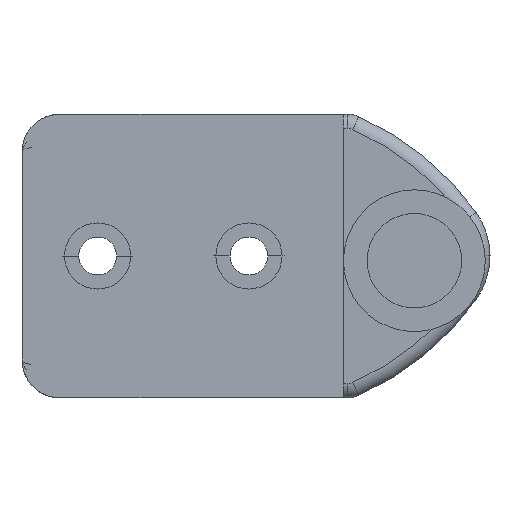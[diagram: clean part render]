
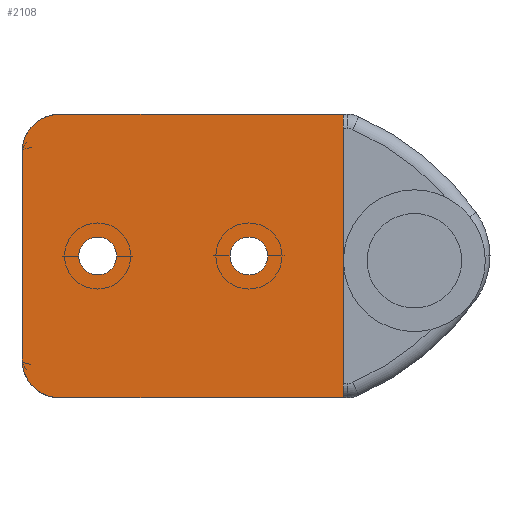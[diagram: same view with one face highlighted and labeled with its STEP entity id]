
A CAD part, front view. The second image highlights one B-rep face of the part: STEP entity #2108.
In plain terms, the highlighted planar face has unit normal (0, -1, 0).
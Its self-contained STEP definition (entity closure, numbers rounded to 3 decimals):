
#5 = LINE ( 'NONE', #3093, #158 ) ;
#38 = FACE_OUTER_BOUND ( 'NONE', #473, .T. ) ;
#60 = CIRCLE ( 'NONE', #2495, 2. ) ;
#80 = CIRCLE ( 'NONE', #2481, 4. ) ;
#108 = CIRCLE ( 'NONE', #2157, 4. ) ;
#156 = VECTOR ( 'NONE', #3078, 1000. ) ;
#158 = VECTOR ( 'NONE', #3092, 1000. ) ;
#164 = LINE ( 'NONE', #3079, #156 ) ;
#185 = VECTOR ( 'NONE', #3697, 1000. ) ;
#214 = FACE_BOUND ( 'NONE', #488, .T. ) ;
#217 = LINE ( 'NONE', #3815, #185 ) ;
#295 = EDGE_LOOP ( 'NONE', ( #667, #707 ) ) ;
#368 = ORIENTED_EDGE ( 'NONE', *, *, #2277, .T. ) ;
#375 = ORIENTED_EDGE ( 'NONE', *, *, #2329, .T. ) ;
#378 = ORIENTED_EDGE ( 'NONE', *, *, #2271, .T. ) ;
#420 = ORIENTED_EDGE ( 'NONE', *, *, #2265, .T. ) ;
#456 = ORIENTED_EDGE ( 'NONE', *, *, #2232, .F. ) ;
#462 = ORIENTED_EDGE ( 'NONE', *, *, #2281, .T. ) ;
#473 = EDGE_LOOP ( 'NONE', ( #689, #420, #378, #368, #462, #375 ) ) ;
#488 = EDGE_LOOP ( 'NONE', ( #456, #751 ) ) ;
#667 = ORIENTED_EDGE ( 'NONE', *, *, #2239, .F. ) ;
#689 = ORIENTED_EDGE ( 'NONE', *, *, #2287, .T. ) ;
#707 = ORIENTED_EDGE ( 'NONE', *, *, #2331, .F. ) ;
#751 = ORIENTED_EDGE ( 'NONE', *, *, #2330, .F. ) ;
#778 = LINE ( 'NONE', #2964, #843 ) ;
#791 = CIRCLE ( 'NONE', #2486, 2. ) ;
#801 = CIRCLE ( 'NONE', #2149, 2. ) ;
#843 = VECTOR ( 'NONE', #2963, 1000. ) ;
#854 = FACE_BOUND ( 'NONE', #295, .T. ) ;
#884 = CIRCLE ( 'NONE', #2168, 2. ) ;
#1742 = CARTESIAN_POINT ( 'NONE',  ( -41.5, 547., -10.5 ) ) ;
#1744 = CARTESIAN_POINT ( 'NONE',  ( -37.5, 547., 15.5 ) ) ;
#1767 = CARTESIAN_POINT ( 'NONE',  ( -7.5, 547., -14.5 ) ) ;
#1772 = CARTESIAN_POINT ( 'NONE',  ( -41.5, 547., 11.5 ) ) ;
#1794 = CARTESIAN_POINT ( 'NONE',  ( -37.5, 547., -14.5 ) ) ;
#1809 = CARTESIAN_POINT ( 'NONE',  ( -7.5, 547., 15.5 ) ) ;
#1848 = CARTESIAN_POINT ( 'NONE',  ( -35.5, 547., 0.5 ) ) ;
#1850 = CARTESIAN_POINT ( 'NONE',  ( -31.5, 547., 0.5 ) ) ;
#1851 = CARTESIAN_POINT ( 'NONE',  ( -15.5, 547., 0.5 ) ) ;
#1852 = CARTESIAN_POINT ( 'NONE',  ( -19.5, 547., 0.5 ) ) ;
#1865 = VERTEX_POINT ( 'NONE', #1852 ) ;
#1866 = VERTEX_POINT ( 'NONE', #1851 ) ;
#1867 = VERTEX_POINT ( 'NONE', #1850 ) ;
#1869 = VERTEX_POINT ( 'NONE', #1848 ) ;
#1912 = VERTEX_POINT ( 'NONE', #1809 ) ;
#1937 = VERTEX_POINT ( 'NONE', #1794 ) ;
#1981 = VERTEX_POINT ( 'NONE', #1772 ) ;
#1985 = VERTEX_POINT ( 'NONE', #1767 ) ;
#2019 = VERTEX_POINT ( 'NONE', #1744 ) ;
#2020 = VERTEX_POINT ( 'NONE', #1742 ) ;
#2108 = ADVANCED_FACE ( 'NONE', ( #214, #854, #38 ), #3290, .T. ) ;
#2149 = AXIS2_PLACEMENT_3D ( 'NONE', #2959, #2958, #2957 ) ;
#2157 = AXIS2_PLACEMENT_3D ( 'NONE', #2547, #2546, #2545 ) ;
#2168 = AXIS2_PLACEMENT_3D ( 'NONE', #2962, #2961, #2960 ) ;
#2232 = EDGE_CURVE ( 'NONE', #1865, #1866, #60, .T. ) ;
#2239 = EDGE_CURVE ( 'NONE', #1869, #1867, #791, .T. ) ;
#2265 = EDGE_CURVE ( 'NONE', #2019, #1981, #80, .T. ) ;
#2271 = EDGE_CURVE ( 'NONE', #1981, #2020, #217, .T. ) ;
#2277 = EDGE_CURVE ( 'NONE', #2020, #1937, #108, .T. ) ;
#2281 = EDGE_CURVE ( 'NONE', #1937, #1985, #5, .T. ) ;
#2287 = EDGE_CURVE ( 'NONE', #1912, #2019, #164, .T. ) ;
#2329 = EDGE_CURVE ( 'NONE', #1985, #1912, #778, .T. ) ;
#2330 = EDGE_CURVE ( 'NONE', #1866, #1865, #884, .T. ) ;
#2331 = EDGE_CURVE ( 'NONE', #1867, #1869, #801, .T. ) ;
#2481 = AXIS2_PLACEMENT_3D ( 'NONE', #3869, #3647, #3670 ) ;
#2486 = AXIS2_PLACEMENT_3D ( 'NONE', #4001, #3893, #3836 ) ;
#2495 = AXIS2_PLACEMENT_3D ( 'NONE', #4099, #3734, #4071 ) ;
#2514 = AXIS2_PLACEMENT_3D ( 'NONE', #3423, #3424, #3425 ) ;
#2545 = DIRECTION ( 'NONE',  ( 1., 0., 0. ) ) ;
#2546 = DIRECTION ( 'NONE',  ( 0., -1., 0. ) ) ;
#2547 = CARTESIAN_POINT ( 'NONE',  ( -37.5, 547., -10.5 ) ) ;
#2957 = DIRECTION ( 'NONE',  ( 1., 0., 0. ) ) ;
#2958 = DIRECTION ( 'NONE',  ( 0., -1., 0. ) ) ;
#2959 = CARTESIAN_POINT ( 'NONE',  ( -33.5, 547., 0.5 ) ) ;
#2960 = DIRECTION ( 'NONE',  ( 1., 0., 0. ) ) ;
#2961 = DIRECTION ( 'NONE',  ( 0., -1., 0. ) ) ;
#2962 = CARTESIAN_POINT ( 'NONE',  ( -17.5, 547., 0.5 ) ) ;
#2963 = DIRECTION ( 'NONE',  ( 0., 0., 1. ) ) ;
#2964 = CARTESIAN_POINT ( 'NONE',  ( -7.5, 547., 15.5 ) ) ;
#3078 = DIRECTION ( 'NONE',  ( -1., 0., 0. ) ) ;
#3079 = CARTESIAN_POINT ( 'NONE',  ( -37.5, 547., 15.5 ) ) ;
#3092 = DIRECTION ( 'NONE',  ( 1., 0., 0. ) ) ;
#3093 = CARTESIAN_POINT ( 'NONE',  ( -7.5, 547., -14.5 ) ) ;
#3290 = PLANE ( 'NONE',  #2514 ) ;
#3423 = CARTESIAN_POINT ( 'NONE',  ( -37.5, 547., -10.5 ) ) ;
#3424 = DIRECTION ( 'NONE',  ( 0., -1., 0. ) ) ;
#3425 = DIRECTION ( 'NONE',  ( 1., 0., 0. ) ) ;
#3647 = DIRECTION ( 'NONE',  ( 0., -1., 0. ) ) ;
#3670 = DIRECTION ( 'NONE',  ( 1., 0., 0. ) ) ;
#3697 = DIRECTION ( 'NONE',  ( 0., 0., -1. ) ) ;
#3734 = DIRECTION ( 'NONE',  ( 0., -1., 0. ) ) ;
#3815 = CARTESIAN_POINT ( 'NONE',  ( -41.5, 547., -10.5 ) ) ;
#3836 = DIRECTION ( 'NONE',  ( 1., 0., 0. ) ) ;
#3869 = CARTESIAN_POINT ( 'NONE',  ( -37.5, 547., 11.5 ) ) ;
#3893 = DIRECTION ( 'NONE',  ( 0., -1., 0. ) ) ;
#4001 = CARTESIAN_POINT ( 'NONE',  ( -33.5, 547., 0.5 ) ) ;
#4071 = DIRECTION ( 'NONE',  ( 1., 0., 0. ) ) ;
#4099 = CARTESIAN_POINT ( 'NONE',  ( -17.5, 547., 0.5 ) ) ;
